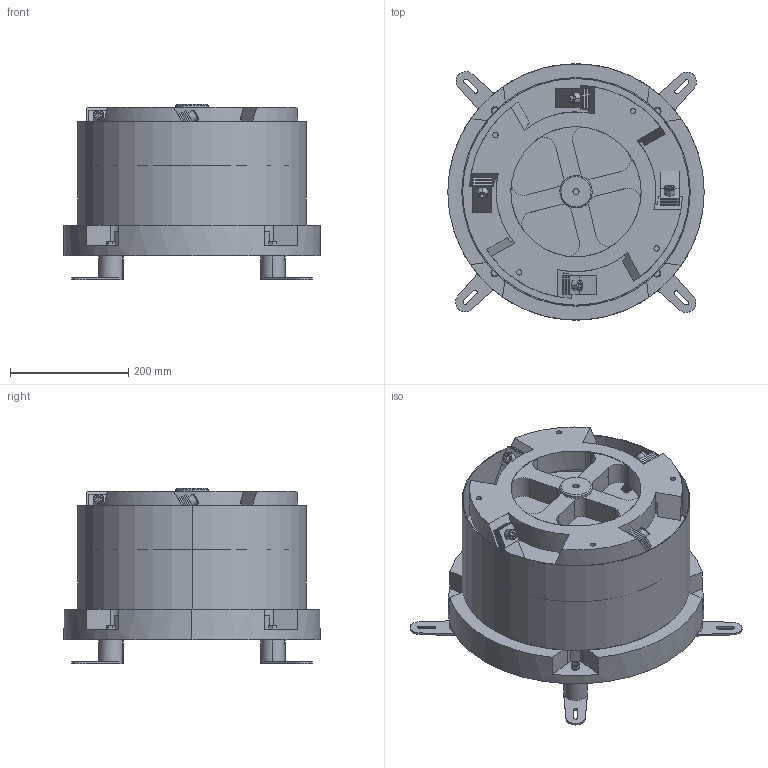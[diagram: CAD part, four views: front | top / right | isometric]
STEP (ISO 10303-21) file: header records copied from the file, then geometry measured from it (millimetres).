
FILE_DESCRIPTION(/* description */ (''),/* implementation_level */ '2;1');
FILE_NAME(/* name */ 'DA400 铁盖.stp',/* time_stamp */ '2025-07-17T20:48:07+08:00',/* author */ (''),/* organization */ (''),/* preprocessor_version */ 'ST-DEVELOPER v18.102',/* originating_system */ 'SIEMENS PLM Software NX2206.1700',/* authorisation */ '');
FILE_SCHEMA (('AP203_CONFIGURATION_CONTROLLED_3D_DESIGN_OF_MECHANICAL_PARTS_AND_ASSEMBLIES_MIM_LF { 1 0 10303 403 2 1 2}'));
Length unit declared in the file: millimetre
Products named in the file (1): DA400  铁盖2023_step_objects
Bounding box: 433 x 433 x 296 mm (x, y, z)
Volume: 21744067.4 mm3; surface area: 1332590.1 mm2
Topology: 39 solids, 43 shells, 534 faces, 1273 edges, 830 vertices
Faces by surface type: plane 323, cylinder 179, cone 18, torus 14
Full cylindrical faces by diameter (mm): 11.63 x8
Entity records: 15893 total; most frequent: CARTESIAN_POINT 2818, DIRECTION 2733, ORIENTED_EDGE 2518, EDGE_CURVE 1259, AXIS2_PLACEMENT_3D 1003, VERTEX_POINT 832, LINE 727, VECTOR 727
